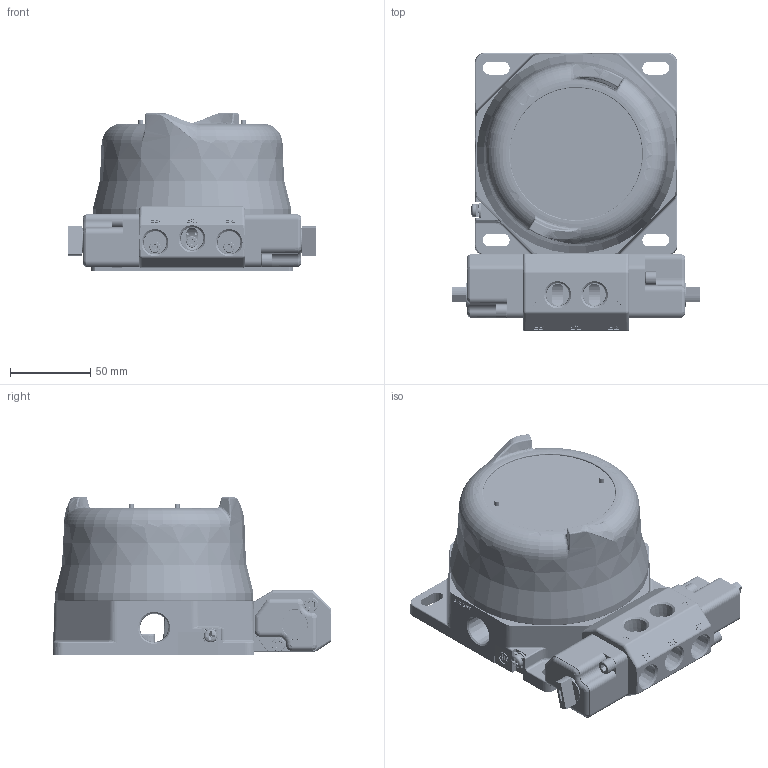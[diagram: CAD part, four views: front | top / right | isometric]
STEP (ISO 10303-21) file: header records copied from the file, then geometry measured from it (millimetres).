
FILE_DESCRIPTION(/* description */ (''),/* implementation_level */ '2;1');
FILE_NAME(/* name */ 'C:\Users\ffmkunzbob\OneDrive - Metso\Desktop\JX STP Assy\JX Pneumatic Assembly for STEP file.stp',/* time_stamp */ '2020-07-24T07:56:16-05:00',/* author */ ('ffmkunzbob'),/* organization */ (''),/* preprocessor_version */ 'ST-DEVELOPER v17',/* originating_system */ 'Autodesk Inventor 2018',/* authorisation */ '');
FILE_SCHEMA (('AUTOMOTIVE_DESIGN { 1 0 10303 214 3 1 1 }'));
Products named in the file (56): JX Assembly for STEP file; 401868; 401847; 428088; Cast Valve Assembly - For STEP File; 450250; 91292A121_TYPE 18-8 SS M4 x 20mm SHCS; 1.2Cv End Cap Assembly; 450238; 450236; 409172; 450183; 450165; 408194; 433058; 407096; 409135; 402191; 402186; 428088_1; Valve Gasket; 408988; 408991; 443053; 605326; 605298; 401729; 401765; 401728; 409172_1; 410221; 407153; 407147; 415038; 450198; 433057; 407160; 433053; 433060; 432038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
Assembly tree (65 placements, depth 7):
  JX Assembly for STEP file
    401868
      401847
      428088  x2
    Cast Valve Assembly - For STEP File
      450250
      91292A121_TYPE 18-8 SS M4 x 20mm SHCS  x3
      1.2Cv End Cap Assembly  x2
        450238
          450236
          409172
        450183
        450165
        408194
        407096
        433058
      409135  x2
    402191
      402186
    428088_1
    408988  x2
    Valve Gasket
    408991
    443053
      605326
        605298
          401729
            401765
              401728
            409172_1
          410221
          407153  x2
          407147
          415038
          450198
          433057
          407160
          433053
          433060
        432038
        418485
          418475
          417324
          417324_1
          413007
          434403
          434379
            Bobbin 434379
            Pin Bobbin v6  x2
      434401
      605299
        402323
        450197
        407152
        403176
      449115
Bounding box: 154.94 x 173.37 x 97.9 mm (x, y, z)
Volume: 628243.8 mm3; surface area: 215025.8 mm2
Topology: 174 solids, 174 shells, 6717 faces, 16964 edges, 10705 vertices
Faces by surface type: plane 3404, cylinder 1392, bspline 1092, cone 429, torus 328, sphere 72
Full cylindrical faces by diameter (mm): 0.762 x8, 0.991 x2, 1.016 x2, 1.054 x1, 1.27 x2, 1.6 x2, 1.778 x2, 1.829 x1, 1.905 x7, 2.007 x12, 2.032 x5, 2.159 x6, 2.261 x14, 2.286 x8, 2.388 x5, 2.464 x4, 2.794 x1, 3.091 x81, 3.175 x6, 3.251 x3, 3.302 x3, 3.454 x1, 3.551 x2, 3.683 x5, 4 x81, 4.013 x2, 4.089 x3, 4.14 x8, 4.166 x3, 4.445 x2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
Entity records: 241962 total; most frequent: CARTESIAN_POINT 96458, ORIENTED_EDGE 30104, DIRECTION 27036, EDGE_CURVE 15052, VERTEX_POINT 9578, AXIS2_PLACEMENT_3D 9143, LINE 8750, VECTOR 8750
